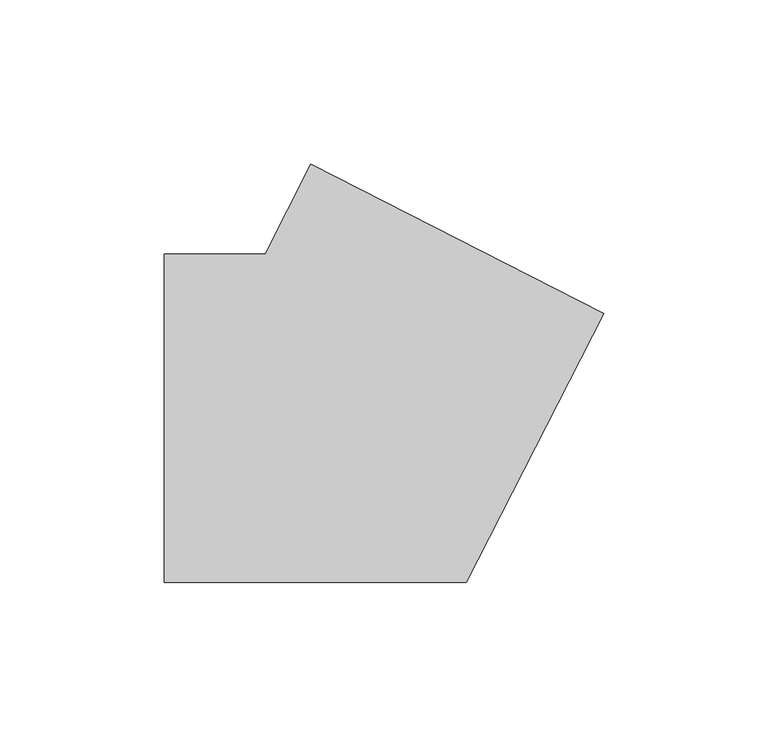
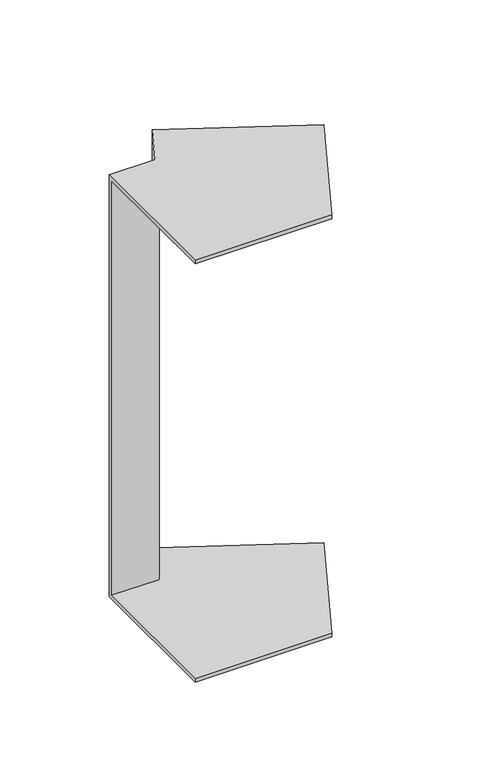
"""IFC4 building model written with IfcOpenShell, lengths in millimetres: cable carrier fitting geometry, ADSK_Поворот вертикальный наружный_Минимальный размер : Неперфорированный."""

from ifc_helpers import new_model, si_unit, origin, place, context, project, spatial, faceted_brep, source, transform, mapped, element, save


def cable_carrier_fitting_9b6415eb(model_context):
    return source(origin(), model_context, "Body", "Brep", [
        faceted_brep([(-61.2800788, 50.0, 150.0), (-61.2800788, 50.0, -150.0), (-61.2800788, -50.0, -150.0), (-61.2800788, -50.0, -147.46), (-61.2800788, 47.46, -147.46), (-61.2800788, 47.46, 147.46), (-61.2800788, -50.0, 147.46), (-61.2800788, -50.0, 150.0), (-16.7297526, 77.300475, 150.0), (72.3708998, 31.901425, 150.0), (72.3708998, 31.901425, 147.46), (-14.466596, 76.1473391, 147.46), (-14.466596, 76.1473391, -147.46), (72.3708998, 31.901425, -147.46), (72.3708998, 31.901425, -150.0), (-16.7297526, 77.300475, -150.0), (-30.6400394, 50.0, 150.0), (-30.6400394, 50.0, -150.0), (30.6400394, -50.0, -150.0), (30.6400394, -50.0, -147.46), (-29.0835254, 47.46, -147.46), (-29.0835254, 47.46, 147.46), (30.6400394, -50.0, 147.46), (30.6400394, -50.0, 150.0)], [[[0, 1, 2, 3, 4, 5, 6, 7]], [[8, 9, 10, 11, 12, 13, 14, 15]], [[1, 0, 16, 17]], [[2, 1, 17, 15, 14, 18]], [[3, 2, 18, 19]], [[4, 3, 19, 13, 12, 20]], [[5, 4, 20, 21]], [[6, 5, 21, 11, 10, 22]], [[7, 6, 22, 23]], [[0, 7, 23, 9, 8, 16]], [[17, 16, 8, 15]], [[19, 18, 14, 13]], [[21, 20, 12, 11]], [[23, 22, 10, 9]]]),
    ])


if __name__ == "__main__":
    model = new_model("IFC4")
    model_context = context("Model", 3, world=origin())
    ifc_project = project(units=[si_unit("LENGTHUNIT", "METRE", prefix="MILLI")], contexts=[model_context])
    site = spatial("IfcSite", under=ifc_project)
    building = spatial("IfcBuilding", under=site)
    placement = place(None, origin())
    cable_carrier_fitting_shape = cable_carrier_fitting_9b6415eb(model_context)
    element("IfcCableCarrierFitting", 1, ObjectType="ADSK_Поворот вертикальный наружный_Минимальный размер : Неперфорированный", at=placement, inside=building, context=model_context, shape_type="MappedRepresentation", body=[
        mapped(cable_carrier_fitting_shape, transform((0.0, 0.0, 0.0), x_axis=(1.0, 0.0, 0.0), y_axis=(0.0, 1.0, 0.0), z_axis=(0.0, 0.0, 1.0))),
    ])
    save(model, "model.ifc")
